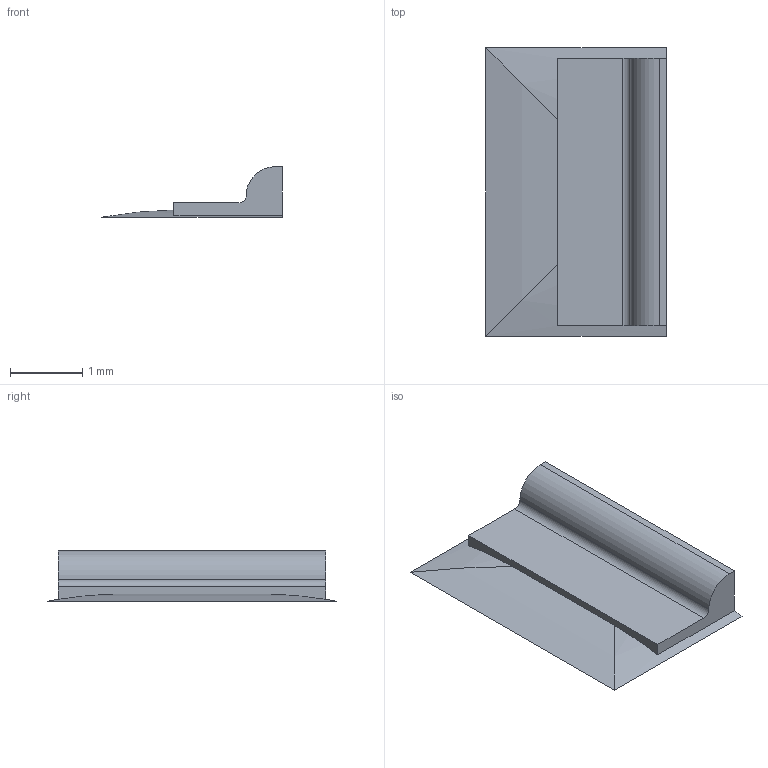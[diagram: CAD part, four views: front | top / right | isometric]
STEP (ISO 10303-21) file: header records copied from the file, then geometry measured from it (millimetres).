
FILE_DESCRIPTION(/* description */ ('STEP AP242 Edition 2','CAx-IF Rec.Pracs.---Representation and Presentation of Product Manufacturing Information (PMI)---4.0---2014-10-13','CAx-IF Rec.Pracs.---3D Tessellated Geometry---0.4---2014-09-14','2;1','CAx-IF Rec.Pracs.---User Defined Attributes---1.5---2016-08-15'),/* implementation_level */ '2;1');
FILE_NAME(/* name */ 'Drone Layout - Surface 259',/* time_stamp */ '2026-10-04T22:22:54Z',/* author */ (''),/* organization */ (''),/* preprocessor_version */ 'ST-DEVELOPER v20',/* originating_system */ 'ONSHAPE BY PTC INC, 1.221',/* authorisation */ ' ');
FILE_SCHEMA (('AP242_MANAGED_MODEL_BASED_3D_ENGINEERING_MIM_LF { 1 0 10303 442 3 1 4 }'));
Length unit declared in the file: metre
Products named in the file (1): vreg:1__pins (2)
Bounding box: 2.5 x 4 x 0.7 mm (x, y, z)
Volume: 2.1 mm3; surface area: 25.1 mm2
Topology: 1 solids, 1 shells, 14 faces, 36 edges, 24 vertices
Faces by surface type: plane 9, cylinder 5
Entity records: 443 total; most frequent: CARTESIAN_POINT 81, ORIENTED_EDGE 72, DIRECTION 72, EDGE_CURVE 36, LINE 26, VECTOR 26, VERTEX_POINT 24, AXIS2_PLACEMENT_3D 23
